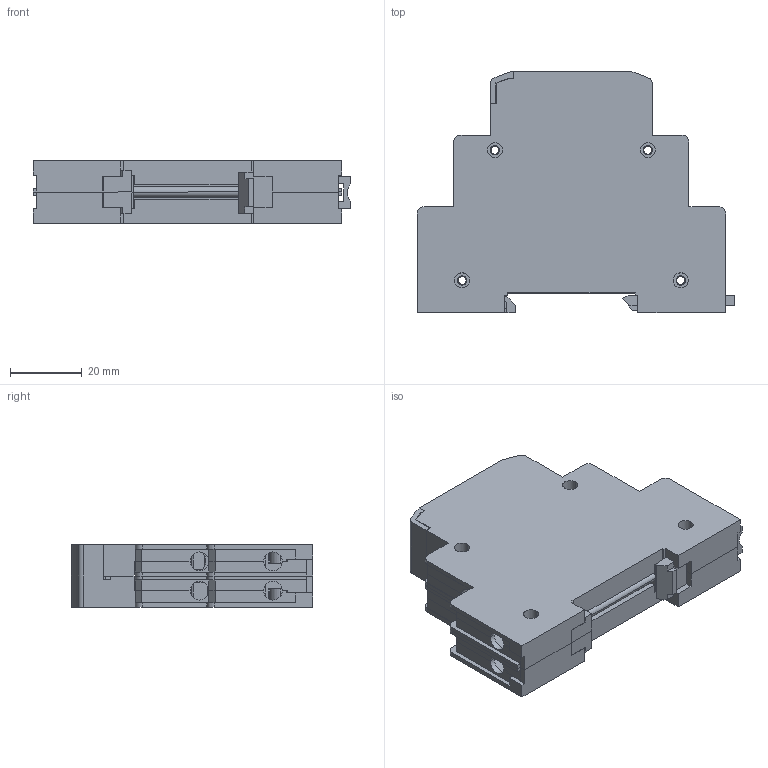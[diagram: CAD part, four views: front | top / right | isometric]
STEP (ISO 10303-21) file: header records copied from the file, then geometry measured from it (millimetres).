
FILE_DESCRIPTION (( 'STEP AP214' ), '1' );
FILE_NAME ('MKA.step', '2011-08-05T12:14:56', ( 'Radek Veselý' ), ( 'Siemens and Partners' ), 'SwSTEP 2.0', 'SolidWorks 2006303', '' );
FILE_SCHEMA (( 'AUTOMOTIVE_DESIGN' ));
Length unit declared in the file: millimetre
Products named in the file (1): MKA
Bounding box: 88.57 x 67.29 x 17.5 mm (x, y, z)
Volume: 32862.5 mm3; surface area: 47819.9 mm2
Topology: 14 solids, 14 shells, 2185 faces, 5967 edges, 3818 vertices
Faces by surface type: plane 1398, cylinder 609, bspline 72, cone 70, torus 28, sphere 8
Entity records: 93786 total; most frequent: CARTESIAN_POINT 14209, ORIENTED_EDGE 11854, DIRECTION 11231, EDGE_CURVE 5927, VECTOR 4275, LINE 4275, VERTEX_POINT 3818, AXIS2_PLACEMENT_3D 3478
